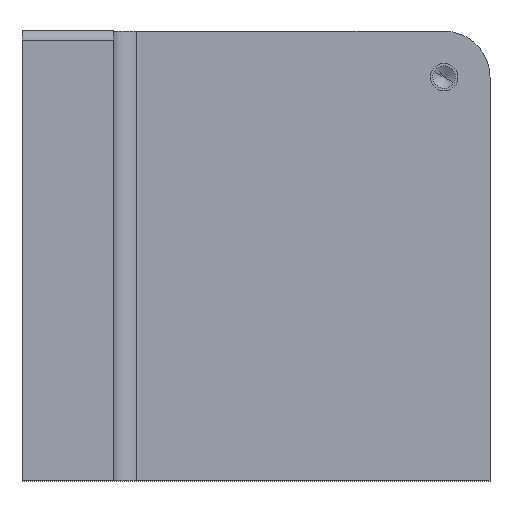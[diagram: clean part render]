
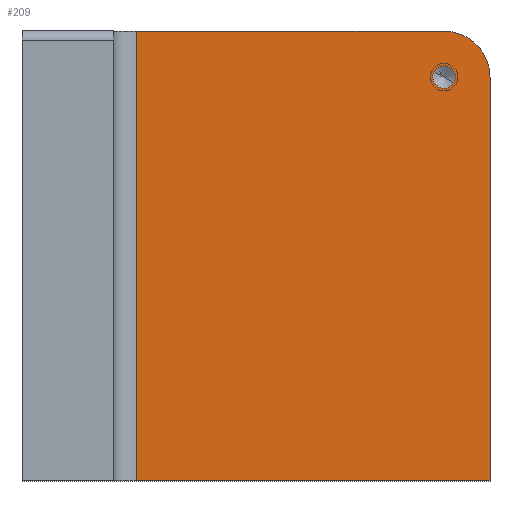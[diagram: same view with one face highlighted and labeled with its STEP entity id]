
A CAD part, top view. The second image highlights one B-rep face of the part: STEP entity #209.
In plain terms, the highlighted planar face has unit normal (0, 0, 1).
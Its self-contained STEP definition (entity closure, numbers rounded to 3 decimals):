
#144=CARTESIAN_POINT('Axis2P3D Location',(0.,0.,20.)) ;
#149=CARTESIAN_POINT('Line Origine',(63.5,0.,20.)) ;
#153=CARTESIAN_POINT('Vertex',(25.,0.,20.)) ;
#155=CARTESIAN_POINT('Vertex',(102.,0.,20.)) ;
#158=CARTESIAN_POINT('Line Origine',(102.,44.,20.)) ;
#162=CARTESIAN_POINT('Vertex',(102.,88.,20.)) ;
#165=CARTESIAN_POINT('Axis2P3D Location',(92.,88.,20.)) ;
#169=CARTESIAN_POINT('Vertex',(92.,98.,20.)) ;
#172=CARTESIAN_POINT('Line Origine',(58.5,98.,20.)) ;
#176=CARTESIAN_POINT('Vertex',(25.,98.,20.)) ;
#179=CARTESIAN_POINT('Line Origine',(25.,49.,20.)) ;
#191=CARTESIAN_POINT('Axis2P3D Location',(92.,88.,20.)) ;
#195=CARTESIAN_POINT('Vertex',(89.842,89.179,20.)) ;
#197=CARTESIAN_POINT('Vertex',(94.158,86.821,20.)) ;
#200=CARTESIAN_POINT('Axis2P3D Location',(92.,88.,20.)) ;
#145=DIRECTION('Axis2P3D Direction',(0.,0.,1.)) ;
#146=DIRECTION('Axis2P3D XDirection',(1.,0.,0.)) ;
#150=DIRECTION('Vector Direction',(1.,0.,0.)) ;
#159=DIRECTION('Vector Direction',(0.,1.,0.)) ;
#166=DIRECTION('Axis2P3D Direction',(0.,0.,1.)) ;
#173=DIRECTION('Vector Direction',(-1.,0.,0.)) ;
#180=DIRECTION('Vector Direction',(0.,-1.,0.)) ;
#192=DIRECTION('Axis2P3D Direction',(0.,0.,1.)) ;
#201=DIRECTION('Axis2P3D Direction',(0.,0.,1.)) ;
#147=AXIS2_PLACEMENT_3D('Plane Axis2P3D',#144,#145,#146) ;
#167=AXIS2_PLACEMENT_3D('Circle Axis2P3D',#165,#166,$) ;
#193=AXIS2_PLACEMENT_3D('Circle Axis2P3D',#191,#192,$) ;
#202=AXIS2_PLACEMENT_3D('Circle Axis2P3D',#200,#201,$) ;
#185=ORIENTED_EDGE('',*,*,#157,.T.) ;
#186=ORIENTED_EDGE('',*,*,#164,.T.) ;
#187=ORIENTED_EDGE('',*,*,#171,.T.) ;
#188=ORIENTED_EDGE('',*,*,#178,.T.) ;
#189=ORIENTED_EDGE('',*,*,#183,.F.) ;
#206=ORIENTED_EDGE('',*,*,#199,.F.) ;
#207=ORIENTED_EDGE('',*,*,#204,.F.) ;
#208=FACE_BOUND('',#205,.T.) ;
#151=VECTOR('Line Direction',#150,1.) ;
#160=VECTOR('Line Direction',#159,1.) ;
#174=VECTOR('Line Direction',#173,1.) ;
#181=VECTOR('Line Direction',#180,1.) ;
#209=ADVANCED_FACE('PartBody',(#190,#208),#148,.T.) ;
#168=CIRCLE('generated circle',#167,10.) ;
#194=CIRCLE('generated circle',#193,2.459) ;
#203=CIRCLE('generated circle',#202,2.459) ;
#157=EDGE_CURVE('',#154,#156,#152,.T.) ;
#164=EDGE_CURVE('',#156,#163,#161,.T.) ;
#171=EDGE_CURVE('',#163,#170,#168,.T.) ;
#178=EDGE_CURVE('',#170,#177,#175,.T.) ;
#183=EDGE_CURVE('',#154,#177,#182,.F.) ;
#199=EDGE_CURVE('',#196,#198,#194,.T.) ;
#204=EDGE_CURVE('',#198,#196,#203,.T.) ;
#184=EDGE_LOOP('',(#185,#186,#187,#188,#189)) ;
#205=EDGE_LOOP('',(#206,#207)) ;
#190=FACE_OUTER_BOUND('',#184,.T.) ;
#152=LINE('Line',#149,#151) ;
#161=LINE('Line',#158,#160) ;
#175=LINE('Line',#172,#174) ;
#182=LINE('Line',#179,#181) ;
#148=PLANE('',#147) ;
#154=VERTEX_POINT('',#153) ;
#156=VERTEX_POINT('',#155) ;
#163=VERTEX_POINT('',#162) ;
#170=VERTEX_POINT('',#169) ;
#177=VERTEX_POINT('',#176) ;
#196=VERTEX_POINT('',#195) ;
#198=VERTEX_POINT('',#197) ;
